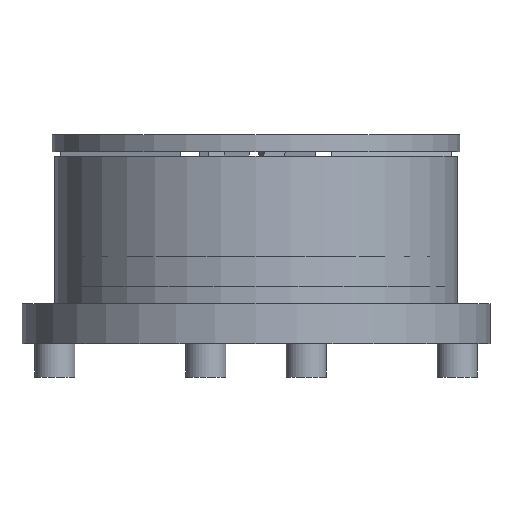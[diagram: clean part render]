
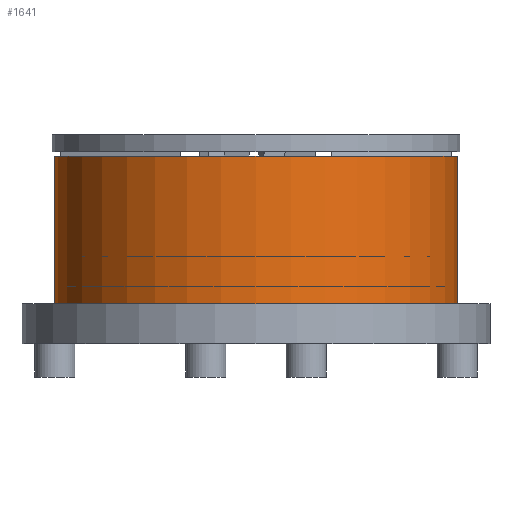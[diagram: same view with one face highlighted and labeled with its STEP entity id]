
A CAD part, front view. The second image highlights one B-rep face of the part: STEP entity #1641.
In plain terms, the highlighted cylindrical face has radius 301 mm (diameter 602 mm), a full revolution.
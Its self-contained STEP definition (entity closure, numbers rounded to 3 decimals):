
#1641=ADVANCED_FACE('',(#2447,#2448),#1896,.T.);
#1896=CYLINDRICAL_SURFACE('',#10830,301.);
#2447=FACE_BOUND('',#3370,.T.);
#2448=FACE_BOUND('',#3371,.T.);
#3370=EDGE_LOOP('',(#5538));
#3371=EDGE_LOOP('',(#5539));
#5538=ORIENTED_EDGE('',*,*,#7892,.F.);
#5539=ORIENTED_EDGE('',*,*,#7893,.T.);
#6749=VERTEX_POINT('',#16315);
#6750=VERTEX_POINT('',#16318);
#7892=EDGE_CURVE('',#6749,#6749,#8406,.T.);
#7893=EDGE_CURVE('',#6750,#6750,#8407,.T.);
#8406=CIRCLE('',#10825,301.);
#8407=CIRCLE('',#10827,301.);
#10825=AXIS2_PLACEMENT_3D('',#16314,#13166,#13167);
#10827=AXIS2_PLACEMENT_3D('',#16317,#13170,#13171);
#10830=AXIS2_PLACEMENT_3D('',#16322,#13176,#13177);
#13166=DIRECTION('',(0.,0.,-1.));
#13167=DIRECTION('',(1.,0.,0.));
#13170=DIRECTION('',(0.,0.,-1.));
#13171=DIRECTION('',(1.,0.,0.));
#13176=DIRECTION('',(0.,0.,1.));
#13177=DIRECTION('',(1.,0.,0.));
#16314=CARTESIAN_POINT('',(1400.,0.,-227.17));
#16315=CARTESIAN_POINT('',(1701.,0.,-227.17));
#16317=CARTESIAN_POINT('',(1400.,0.,-7.17));
#16318=CARTESIAN_POINT('',(1701.,0.,-7.17));
#16322=CARTESIAN_POINT('',(1400.,0.,-227.17));
